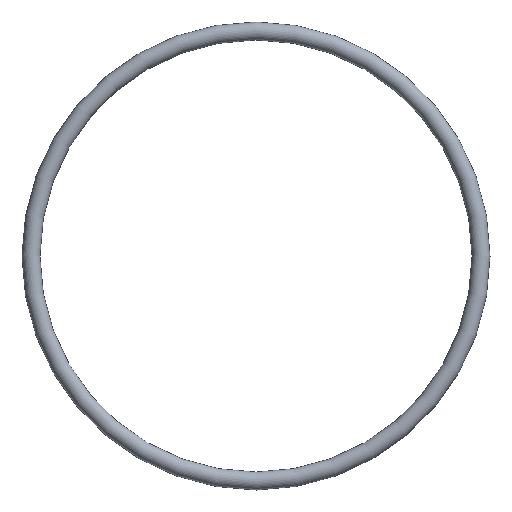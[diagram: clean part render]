
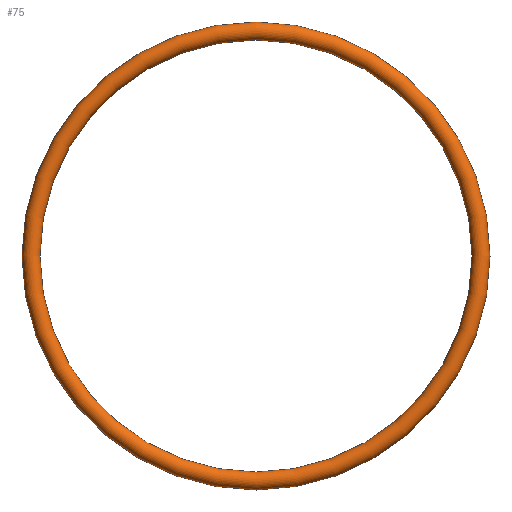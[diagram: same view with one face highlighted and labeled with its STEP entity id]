
A CAD part, front view. The second image highlights one B-rep face of the part: STEP entity #75.
In plain terms, the highlighted toroidal (fillet/blend) face has major radius 18.75 mm and minor radius 0.75 mm.
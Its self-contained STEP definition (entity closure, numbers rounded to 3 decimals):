
#75 = ADVANCED_FACE( '', ( #77 ), #78, .T. );
#77 = FACE_BOUND( '', #79, .T. );
#78 = TOROIDAL_SURFACE( '', #80, 18.75, 0.75 );
#79 = VERTEX_LOOP( '', #81 );
#80 = AXIS2_PLACEMENT_3D( '', #82, #83, #84 );
#81 = VERTEX_POINT( '', #85 );
#82 = CARTESIAN_POINT( '', ( 0., 0., 0. ) );
#83 = DIRECTION( '', ( 0., -1., 0. ) );
#84 = DIRECTION( '', ( 0., 0., -1. ) );
#85 = CARTESIAN_POINT( '', ( 0., 0., -19.5 ) );
